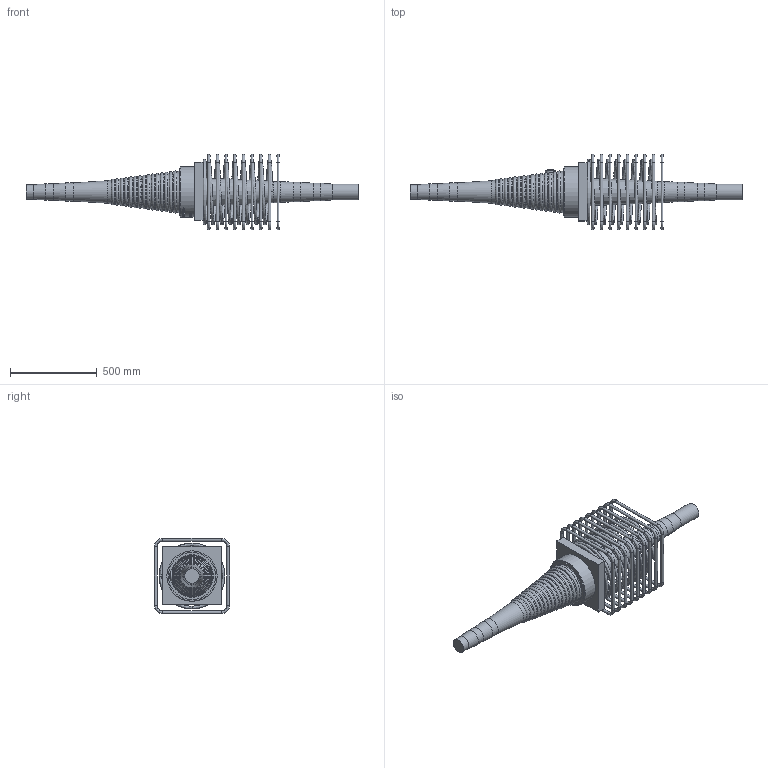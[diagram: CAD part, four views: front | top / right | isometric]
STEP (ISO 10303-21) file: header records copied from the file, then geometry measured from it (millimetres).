
FILE_DESCRIPTION(/* description */ (''),/* implementation_level */ '2;1');
FILE_NAME(/* name */ 'Z:\04 Publications\05 Give-out\BBR\6_3D_Models\BBR VT CONA CMI\BBR VT CONA CMI SP\01906\BBR VT CONA CMI SP 1906_Couler K Assembly_CS-34,28.stp',/* time_stamp */ '2017-05-05T15:53:48+02:00',/* author */ ('IP'),/* organization */ (''),/* preprocessor_version */ 'ST-DEVELOPER v16.1',/* originating_system */ 'Autodesk Inventor 2016',/* authorisation */ '');
FILE_SCHEMA (('AUTOMOTIVE_DESIGN { 1 0 10303 214 3 1 1 }'));
Length unit declared in the file: millimetre
Products named in the file (1): BBR VT CONA CMI SP 1906_Couler K Assembly_CS-34,28
Bounding box: 1916 x 435 x 435 mm (x, y, z)
Volume: 42651110.6 mm3; surface area: 2299544.8 mm2
Topology: 11 solids, 11 shells, 900 faces, 2326 edges, 1490 vertices
Faces by surface type: bspline 381, plane 298, cylinder 111, torus 93, cone 17
Full cylindrical faces by diameter (mm): 16 x36, 34 x1, 57 x1, 84 x1, 91.725 x1, 94 x1, 101.793 x1, 104 x1, 111.862 x1, 121.932 x1, 273 x1, 290 x1
Entity records: 37492 total; most frequent: CARTESIAN_POINT 18082, ORIENTED_EDGE 4334, DIRECTION 2963, EDGE_CURVE 2164, VERTEX_POINT 1486, EDGE_LOOP 1123, AXIS2_PLACEMENT_3D 1042, FACE_OUTER_BOUND 900
